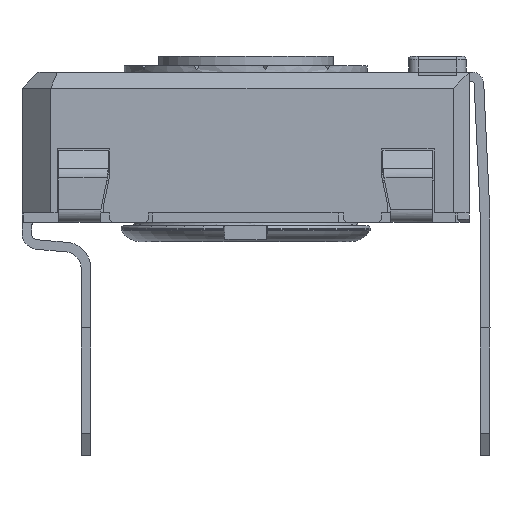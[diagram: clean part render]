
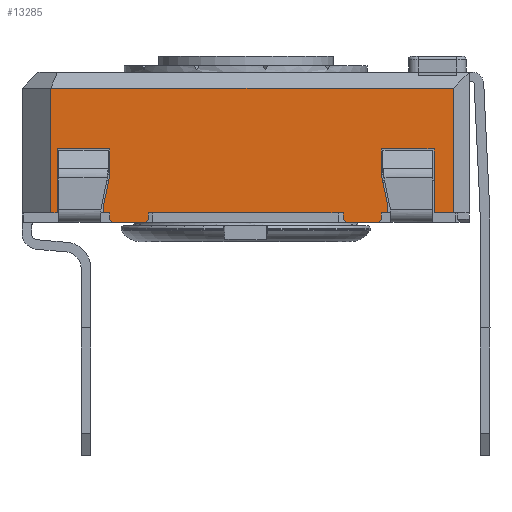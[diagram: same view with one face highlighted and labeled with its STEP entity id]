
A CAD part, left-side view. The second image highlights one B-rep face of the part: STEP entity #13285.
In plain terms, the highlighted planar face has unit normal (-1, 0, 0).
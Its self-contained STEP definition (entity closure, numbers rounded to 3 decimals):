
#1041=FACE_OUTER_BOUND('',#1732,.T.);
#1732=EDGE_LOOP('',(#10615,#10616,#10617,#10618,#10619,#10620,#10621,#10622,
#10623,#10624,#10625,#10626,#10627,#10628,#10629,#10630,#10631,#10632,#10633,
#10634,#10635,#10636,#10637,#10638,#10639,#10640,#10641,#10642));
#2745=LINE('',#20343,#4269);
#2751=LINE('',#20355,#4275);
#2754=LINE('',#20362,#4278);
#2759=LINE('',#20371,#4283);
#2779=LINE('',#20412,#4303);
#2793=LINE('',#20438,#4317);
#2797=LINE('',#20445,#4321);
#2812=LINE('',#20474,#4336);
#2815=LINE('',#20480,#4339);
#2820=LINE('',#20490,#4344);
#2823=LINE('',#20496,#4347);
#2826=LINE('',#20502,#4350);
#2844=LINE('',#20537,#4368);
#2856=LINE('',#20559,#4380);
#2859=LINE('',#20565,#4383);
#2896=LINE('',#20699,#4420);
#2899=LINE('',#20705,#4423);
#2925=LINE('',#20752,#4449);
#2930=LINE('',#20762,#4454);
#2932=LINE('',#20765,#4456);
#3057=LINE('',#21076,#4581);
#3059=LINE('',#21081,#4583);
#3062=LINE('',#21085,#4586);
#3064=LINE('',#21089,#4588);
#3067=LINE('',#21097,#4591);
#3068=LINE('',#21099,#4592);
#3069=LINE('',#21100,#4593);
#3070=LINE('',#21101,#4594);
#4269=VECTOR('',#16291,10.);
#4275=VECTOR('',#16299,10.);
#4278=VECTOR('',#16304,10.);
#4283=VECTOR('',#16311,10.);
#4303=VECTOR('',#16345,10.);
#4317=VECTOR('',#16359,10.);
#4321=VECTOR('',#16363,10.);
#4336=VECTOR('',#16390,10.);
#4339=VECTOR('',#16395,10.);
#4344=VECTOR('',#16402,10.);
#4347=VECTOR('',#16407,10.);
#4350=VECTOR('',#16412,10.);
#4368=VECTOR('',#16432,10.);
#4380=VECTOR('',#16446,10.);
#4383=VECTOR('',#16451,10.);
#4420=VECTOR('',#16532,10.);
#4423=VECTOR('',#16537,10.);
#4449=VECTOR('',#16565,10.);
#4454=VECTOR('',#16572,10.);
#4456=VECTOR('',#16576,10.);
#4581=VECTOR('',#16867,10.);
#4583=VECTOR('',#16871,10.);
#4586=VECTOR('',#16876,10.);
#4588=VECTOR('',#16882,10.);
#4591=VECTOR('',#16893,10.);
#4592=VECTOR('',#16894,10.);
#4593=VECTOR('',#16895,10.);
#4594=VECTOR('',#16896,10.);
#5702=VERTEX_POINT('',#20340);
#5703=VERTEX_POINT('',#20342);
#5707=VERTEX_POINT('',#20352);
#5709=VERTEX_POINT('',#20358);
#5711=VERTEX_POINT('',#20361);
#5714=VERTEX_POINT('',#20369);
#5739=VERTEX_POINT('',#20435);
#5740=VERTEX_POINT('',#20437);
#5742=VERTEX_POINT('',#20442);
#5743=VERTEX_POINT('',#20444);
#5750=VERTEX_POINT('',#20471);
#5752=VERTEX_POINT('',#20477);
#5756=VERTEX_POINT('',#20487);
#5758=VERTEX_POINT('',#20493);
#5761=VERTEX_POINT('',#20500);
#5777=VERTEX_POINT('',#20535);
#5786=VERTEX_POINT('',#20557);
#5788=VERTEX_POINT('',#20563);
#5815=VERTEX_POINT('',#20697);
#5816=VERTEX_POINT('',#20702);
#5836=VERTEX_POINT('',#20749);
#5840=VERTEX_POINT('',#20759);
#5914=VERTEX_POINT('',#21073);
#5915=VERTEX_POINT('',#21075);
#5916=VERTEX_POINT('',#21079);
#5917=VERTEX_POINT('',#21080);
#5918=VERTEX_POINT('',#21096);
#5919=VERTEX_POINT('',#21098);
#7253=EDGE_CURVE('',#5703,#5702,#2745,.T.);
#7259=EDGE_CURVE('',#5702,#5707,#2751,.T.);
#7262=EDGE_CURVE('',#5711,#5709,#2754,.T.);
#7267=EDGE_CURVE('',#5714,#5709,#2759,.T.);
#7287=EDGE_CURVE('',#5707,#5711,#2779,.T.);
#7301=EDGE_CURVE('',#5740,#5739,#2793,.T.);
#7305=EDGE_CURVE('',#5743,#5742,#2797,.T.);
#7321=EDGE_CURVE('',#5739,#5750,#2812,.T.);
#7324=EDGE_CURVE('',#5750,#5752,#2815,.T.);
#7329=EDGE_CURVE('',#5752,#5756,#2820,.T.);
#7332=EDGE_CURVE('',#5756,#5758,#2823,.T.);
#7335=EDGE_CURVE('',#5758,#5761,#2826,.T.);
#7353=EDGE_CURVE('',#5761,#5777,#2844,.T.);
#7365=EDGE_CURVE('',#5786,#5777,#2856,.T.);
#7368=EDGE_CURVE('',#5788,#5786,#2859,.T.);
#7417=EDGE_CURVE('',#5815,#5788,#2896,.T.);
#7420=EDGE_CURVE('',#5815,#5816,#2899,.T.);
#7446=EDGE_CURVE('',#5816,#5836,#2925,.T.);
#7451=EDGE_CURVE('',#5836,#5840,#2930,.T.);
#7453=EDGE_CURVE('',#5840,#5703,#2932,.T.);
#7594=EDGE_CURVE('',#5914,#5915,#3057,.T.);
#7596=EDGE_CURVE('',#5916,#5917,#3059,.T.);
#7599=EDGE_CURVE('',#5740,#5914,#3062,.T.);
#7601=EDGE_CURVE('',#5742,#5917,#3064,.T.);
#7604=EDGE_CURVE('',#5714,#5918,#3067,.T.);
#7605=EDGE_CURVE('',#5919,#5918,#3068,.T.);
#7606=EDGE_CURVE('',#5743,#5919,#3069,.T.);
#7607=EDGE_CURVE('',#5916,#5915,#3070,.T.);
#10615=ORIENTED_EDGE('',*,*,#7259,.T.);
#10616=ORIENTED_EDGE('',*,*,#7287,.T.);
#10617=ORIENTED_EDGE('',*,*,#7262,.T.);
#10618=ORIENTED_EDGE('',*,*,#7267,.F.);
#10619=ORIENTED_EDGE('',*,*,#7604,.T.);
#10620=ORIENTED_EDGE('',*,*,#7605,.F.);
#10621=ORIENTED_EDGE('',*,*,#7606,.F.);
#10622=ORIENTED_EDGE('',*,*,#7305,.T.);
#10623=ORIENTED_EDGE('',*,*,#7601,.T.);
#10624=ORIENTED_EDGE('',*,*,#7596,.F.);
#10625=ORIENTED_EDGE('',*,*,#7607,.T.);
#10626=ORIENTED_EDGE('',*,*,#7594,.F.);
#10627=ORIENTED_EDGE('',*,*,#7599,.F.);
#10628=ORIENTED_EDGE('',*,*,#7301,.T.);
#10629=ORIENTED_EDGE('',*,*,#7321,.T.);
#10630=ORIENTED_EDGE('',*,*,#7324,.T.);
#10631=ORIENTED_EDGE('',*,*,#7329,.T.);
#10632=ORIENTED_EDGE('',*,*,#7332,.T.);
#10633=ORIENTED_EDGE('',*,*,#7335,.T.);
#10634=ORIENTED_EDGE('',*,*,#7353,.T.);
#10635=ORIENTED_EDGE('',*,*,#7365,.F.);
#10636=ORIENTED_EDGE('',*,*,#7368,.F.);
#10637=ORIENTED_EDGE('',*,*,#7417,.F.);
#10638=ORIENTED_EDGE('',*,*,#7420,.T.);
#10639=ORIENTED_EDGE('',*,*,#7446,.T.);
#10640=ORIENTED_EDGE('',*,*,#7451,.T.);
#10641=ORIENTED_EDGE('',*,*,#7453,.T.);
#10642=ORIENTED_EDGE('',*,*,#7253,.T.);
#12443=PLANE('',#14181);
#13285=ADVANCED_FACE('',(#1041),#12443,.T.);
#14181=AXIS2_PLACEMENT_3D('',#21095,#16891,#16892);
#16291=DIRECTION('',(0.,0.208,-0.978));
#16299=DIRECTION('',(0.,0.,-1.));
#16304=DIRECTION('',(0.,0.,-1.));
#16311=DIRECTION('',(0.,0.707,0.707));
#16345=DIRECTION('',(0.,-1.,0.));
#16359=DIRECTION('',(0.,-1.,0.));
#16363=DIRECTION('',(0.,-1.,0.));
#16390=DIRECTION('',(0.,0.,1.));
#16395=DIRECTION('',(0.,0.208,0.978));
#16402=DIRECTION('',(0.,0.,1.));
#16407=DIRECTION('',(0.,-1.,0.));
#16412=DIRECTION('',(0.,0.,-1.));
#16432=DIRECTION('',(0.,-1.,0.));
#16446=DIRECTION('',(0.,0.,-1.));
#16451=DIRECTION('',(0.,-1.,0.));
#16532=DIRECTION('',(0.,0.,1.));
#16537=DIRECTION('',(0.,-1.,0.));
#16565=DIRECTION('',(0.,0.,1.));
#16572=DIRECTION('',(0.,-1.,0.));
#16576=DIRECTION('',(0.,0.,-1.));
#16867=DIRECTION('',(0.,0.707,-0.707));
#16871=DIRECTION('',(0.,0.707,0.707));
#16876=DIRECTION('',(0.,0.,-1.));
#16882=DIRECTION('',(0.,0.,-1.));
#16891=DIRECTION('center_axis',(-1.,0.,0.));
#16892=DIRECTION('ref_axis',(0.,0.,1.));
#16893=DIRECTION('',(0.,-1.,0.));
#16894=DIRECTION('',(0.,0.707,-0.707));
#16895=DIRECTION('',(0.,0.,-1.));
#16896=DIRECTION('',(0.,-1.,0.));
#20340=CARTESIAN_POINT('',(-14.467,1.552,0.235));
#20342=CARTESIAN_POINT('',(-14.467,1.352,1.176));
#20343=CARTESIAN_POINT('',(-14.467,1.228,1.757));
#20352=CARTESIAN_POINT('',(-14.467,1.552,0.));
#20355=CARTESIAN_POINT('',(-14.467,1.552,0.));
#20358=CARTESIAN_POINT('',(-14.467,1.352,-0.2));
#20361=CARTESIAN_POINT('',(-14.467,1.352,0.));
#20362=CARTESIAN_POINT('',(-14.467,1.352,0.));
#20369=CARTESIAN_POINT('',(-14.467,1.252,-0.3));
#20371=CARTESIAN_POINT('',(-14.467,-1.436,-2.988));
#20412=CARTESIAN_POINT('',(-14.467,4.102,0.));
#20435=CARTESIAN_POINT('',(-14.467,-7.348,0.));
#20437=CARTESIAN_POINT('',(-14.467,-7.148,0.));
#20438=CARTESIAN_POINT('',(-14.467,4.102,0.));
#20442=CARTESIAN_POINT('',(-14.467,-5.948,0.));
#20444=CARTESIAN_POINT('',(-14.467,0.152,0.));
#20445=CARTESIAN_POINT('',(-14.467,4.102,0.));
#20471=CARTESIAN_POINT('',(-14.467,-7.348,0.235));
#20474=CARTESIAN_POINT('',(-14.467,-7.348,0.118));
#20477=CARTESIAN_POINT('',(-14.467,-7.148,1.176));
#20480=CARTESIAN_POINT('',(-14.467,-7.453,-0.254));
#20487=CARTESIAN_POINT('',(-14.467,-7.148,2.));
#20490=CARTESIAN_POINT('',(-14.467,-7.148,0.588));
#20493=CARTESIAN_POINT('',(-14.467,-8.798,2.));
#20496=CARTESIAN_POINT('',(-14.467,-8.523,2.));
#20500=CARTESIAN_POINT('',(-14.467,-8.798,0.));
#20502=CARTESIAN_POINT('',(-14.467,-8.798,0.));
#20535=CARTESIAN_POINT('',(-14.467,-9.398,0.));
#20537=CARTESIAN_POINT('',(-14.467,-9.595,0.));
#20557=CARTESIAN_POINT('',(-14.467,-9.398,3.9));
#20559=CARTESIAN_POINT('',(-14.467,-9.398,0.));
#20563=CARTESIAN_POINT('',(-14.467,3.202,3.9));
#20565=CARTESIAN_POINT('',(-14.467,-6.398,3.9));
#20697=CARTESIAN_POINT('',(-14.467,3.202,0.));
#20699=CARTESIAN_POINT('',(-14.467,3.202,0.));
#20702=CARTESIAN_POINT('',(-14.467,3.002,0.));
#20705=CARTESIAN_POINT('',(-14.467,-2.985,0.));
#20749=CARTESIAN_POINT('',(-14.467,3.002,2.));
#20752=CARTESIAN_POINT('',(-14.467,3.002,0.));
#20759=CARTESIAN_POINT('',(-14.467,1.352,2.));
#20762=CARTESIAN_POINT('',(-14.467,-3.448,2.));
#20765=CARTESIAN_POINT('',(-14.467,1.352,1.));
#21073=CARTESIAN_POINT('',(-14.467,-7.148,-0.2));
#21075=CARTESIAN_POINT('',(-14.467,-7.048,-0.3));
#21076=CARTESIAN_POINT('',(-14.467,-7.861,0.513));
#21079=CARTESIAN_POINT('',(-14.467,-6.048,-0.3));
#21080=CARTESIAN_POINT('',(-14.467,-5.948,-0.2));
#21081=CARTESIAN_POINT('',(-14.467,-6.911,-1.163));
#21085=CARTESIAN_POINT('',(-14.467,-7.148,0.));
#21089=CARTESIAN_POINT('',(-14.467,-5.948,0.));
#21095=CARTESIAN_POINT('Origin',(-14.467,-9.898,0.));
#21096=CARTESIAN_POINT('',(-14.467,0.252,-0.3));
#21097=CARTESIAN_POINT('',(-14.467,0.152,-0.3));
#21098=CARTESIAN_POINT('',(-14.467,0.152,-0.2));
#21099=CARTESIAN_POINT('',(-14.467,-2.386,2.338));
#21100=CARTESIAN_POINT('',(-14.467,0.152,0.));
#21101=CARTESIAN_POINT('',(-14.467,-7.148,-0.3));
